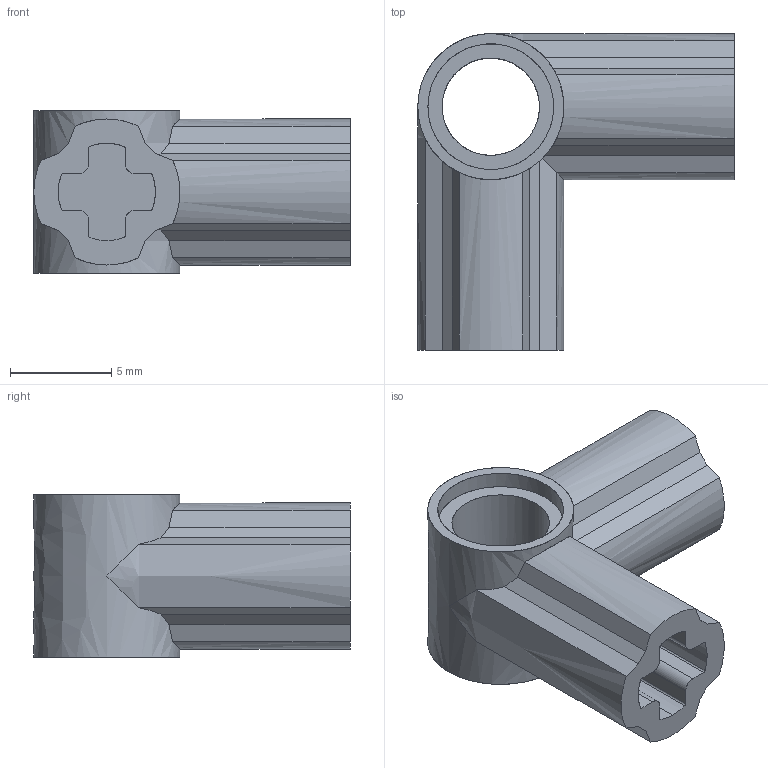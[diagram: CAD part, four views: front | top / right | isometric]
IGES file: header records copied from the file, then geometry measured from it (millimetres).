
Start section: C
Global section: file name: Black_4107767_JCA.iges; native system: By Siemens PLM Incorporated; preprocessor: XPlus GENERIC/IGES 26.1.183; author: Author; organization: Title; date: 20250721.234347; units: millimetre
Bounding box: 15.6 x 15.6 x 8 mm (x, y, z)
Surface area: 1042.5 mm2 (no closed solid volume)
Topology: 0 solids, 0 shells, 96 faces, 552 edges, 551 vertices
Faces by surface type: bspline 96
